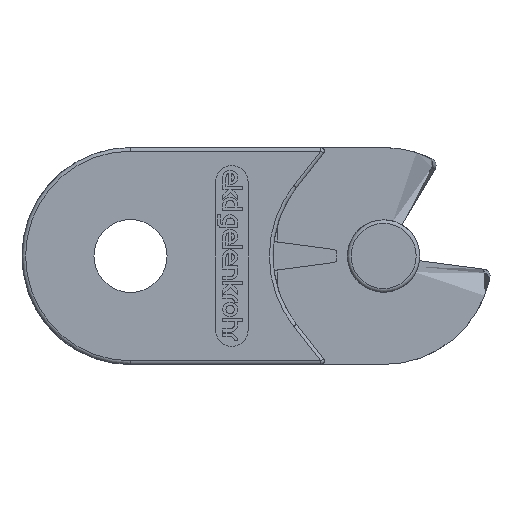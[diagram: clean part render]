
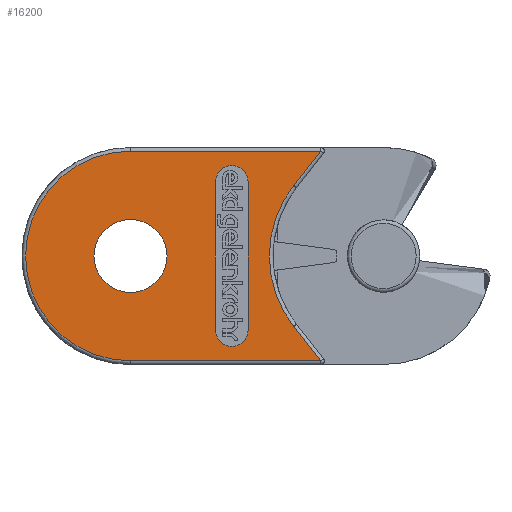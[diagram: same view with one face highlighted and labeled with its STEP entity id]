
A CAD part, left-side view. The second image highlights one B-rep face of the part: STEP entity #16200.
In plain terms, the highlighted planar face has unit normal (-1, 0, 0).
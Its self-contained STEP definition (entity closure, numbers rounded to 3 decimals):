
#8563=CARTESIAN_POINT('',(0.0,12.85,15.));
#8564=VERTEX_POINT('',#8563);
#8565=CARTESIAN_POINT('',(0.0,17.9,15.));
#8566=DIRECTION('',(1.0,0.0,0.0));
#8567=DIRECTION('',(0.0,1.0,0.0));
#8568=AXIS2_PLACEMENT_3D('',#8565,#8566,#8567);
#8569=CIRCLE('',#8568,5.05);
#8570=EDGE_CURVE('',#8564,#8564,#8569,.T.);
#9004=CARTESIAN_POINT('',(0.0,-8.393,29.5));
#9005=VERTEX_POINT('',#9004);
#9029=CARTESIAN_POINT('',(0.0,-8.393,0.5));
#9030=VERTEX_POINT('',#9029);
#9053=CARTESIAN_POINT('',(0.0,-4.668,24.751));
#9054=VERTEX_POINT('',#9053);
#9069=CARTESIAN_POINT('',(0.0,-8.393,29.5));
#9070=DIRECTION('',(0.0,0.617,-0.787));
#9071=VECTOR('',#9070,6.035);
#9072=LINE('',#9069,#9071);
#9073=EDGE_CURVE('',#9005,#9054,#9072,.T.);
#9085=CARTESIAN_POINT('',(0.0,-4.668,5.249));
#9086=VERTEX_POINT('',#9085);
#9087=CARTESIAN_POINT('',(0.0,-17.1,15.));
#9088=DIRECTION('',(-1.0,0.0,0.0));
#9089=DIRECTION('',(0.0,1.,0.));
#9090=AXIS2_PLACEMENT_3D('',#9087,#9088,#9089);
#9091=CIRCLE('',#9090,15.8);
#9092=EDGE_CURVE('',#9054,#9086,#9091,.T.);
#9117=CARTESIAN_POINT('',(0.0,-4.668,5.249));
#9118=DIRECTION('',(0.0,-0.617,-0.787));
#9119=VECTOR('',#9118,6.035);
#9120=LINE('',#9117,#9119);
#9121=EDGE_CURVE('',#9086,#9030,#9120,.T.);
#9131=CARTESIAN_POINT('',(0.0,17.9,29.5));
#9132=VERTEX_POINT('',#9131);
#9142=CARTESIAN_POINT('',(0.0,17.9,29.5));
#9143=DIRECTION('',(0.0,-1.0,0.0));
#9144=VECTOR('',#9143,26.293);
#9145=LINE('',#9142,#9144);
#9146=EDGE_CURVE('',#9132,#9005,#9145,.T.);
#9163=CARTESIAN_POINT('',(0.0,17.9,0.5));
#9164=VERTEX_POINT('',#9163);
#9165=CARTESIAN_POINT('',(0.0,17.9,15.));
#9166=DIRECTION('',(1.0,0.0,0.0));
#9167=DIRECTION('',(0.0,1.0,0.0));
#9168=AXIS2_PLACEMENT_3D('',#9165,#9166,#9167);
#9169=CIRCLE('',#9168,14.5);
#9170=EDGE_CURVE('',#9164,#9132,#9169,.T.);
#9198=CARTESIAN_POINT('',(0.0,-8.393,0.5));
#9199=DIRECTION('',(0.0,1.0,0.0));
#9200=VECTOR('',#9199,26.293);
#9201=LINE('',#9198,#9200);
#9202=EDGE_CURVE('',#9030,#9164,#9201,.T.);
#10205=CARTESIAN_POINT('',(0.0,6.147,25.25));
#10206=VERTEX_POINT('',#10205);
#10207=CARTESIAN_POINT('',(0.0,1.647,25.25));
#10208=VERTEX_POINT('',#10207);
#10209=CARTESIAN_POINT('',(0.0,3.897,25.25));
#10210=DIRECTION('',(1.0,0.0,0.0));
#10211=DIRECTION('',(0.0,0.0,-1.0));
#10212=AXIS2_PLACEMENT_3D('',#10209,#10210,#10211);
#10213=CIRCLE('',#10212,2.25);
#10214=EDGE_CURVE('',#10206,#10208,#10213,.T.);
#10258=CARTESIAN_POINT('',(0.0,6.147,4.75));
#10259=VERTEX_POINT('',#10258);
#10266=CARTESIAN_POINT('',(0.0,1.647,4.75));
#10267=VERTEX_POINT('',#10266);
#10268=CARTESIAN_POINT('',(0.0,3.897,4.75));
#10269=DIRECTION('',(1.0,0.0,0.0));
#10270=DIRECTION('',(0.0,0.0,-1.0));
#10271=AXIS2_PLACEMENT_3D('',#10268,#10269,#10270);
#10272=CIRCLE('',#10271,2.25);
#10273=EDGE_CURVE('',#10267,#10259,#10272,.T.);
#15159=CARTESIAN_POINT('',(0.0,1.647,25.25));
#15160=DIRECTION('',(0.0,0.0,-1.0));
#15161=VECTOR('',#15160,20.5);
#15162=LINE('',#15159,#15161);
#15163=EDGE_CURVE('',#10208,#10267,#15162,.T.);
#15181=CARTESIAN_POINT('',(0.0,6.147,4.75));
#15182=DIRECTION('',(0.0,0.0,1.0));
#15183=VECTOR('',#15182,20.5);
#15184=LINE('',#15181,#15183);
#15185=EDGE_CURVE('',#10259,#10206,#15184,.T.);
#16178=CARTESIAN_POINT('',(0.0,0.189,15.));
#16179=DIRECTION('',(-1.0,0.0,0.0));
#16180=DIRECTION('',(0.0,-1.0,0.0));
#16181=AXIS2_PLACEMENT_3D('',#16178,#16179,#16180);
#16182=PLANE('',#16181);
#16183=ORIENTED_EDGE('',*,*,#9202,.F.);
#16184=ORIENTED_EDGE('',*,*,#9121,.F.);
#16185=ORIENTED_EDGE('',*,*,#9092,.F.);
#16186=ORIENTED_EDGE('',*,*,#9073,.F.);
#16187=ORIENTED_EDGE('',*,*,#9146,.F.);
#16188=ORIENTED_EDGE('',*,*,#9170,.F.);
#16189=EDGE_LOOP('',(#16183,#16184,#16185,#16186,#16187,#16188));
#16190=FACE_OUTER_BOUND('',#16189,.T.);
#16191=ORIENTED_EDGE('',*,*,#10273,.T.);
#16192=ORIENTED_EDGE('',*,*,#15185,.T.);
#16193=ORIENTED_EDGE('',*,*,#10214,.T.);
#16194=ORIENTED_EDGE('',*,*,#15163,.T.);
#16195=EDGE_LOOP('',(#16191,#16192,#16193,#16194));
#16196=FACE_BOUND('',#16195,.T.);
#16197=ORIENTED_EDGE('',*,*,#8570,.T.);
#16198=EDGE_LOOP('',(#16197));
#16199=FACE_BOUND('',#16198,.T.);
#16200=ADVANCED_FACE('',(#16190,#16196,#16199),#16182,.T.);
